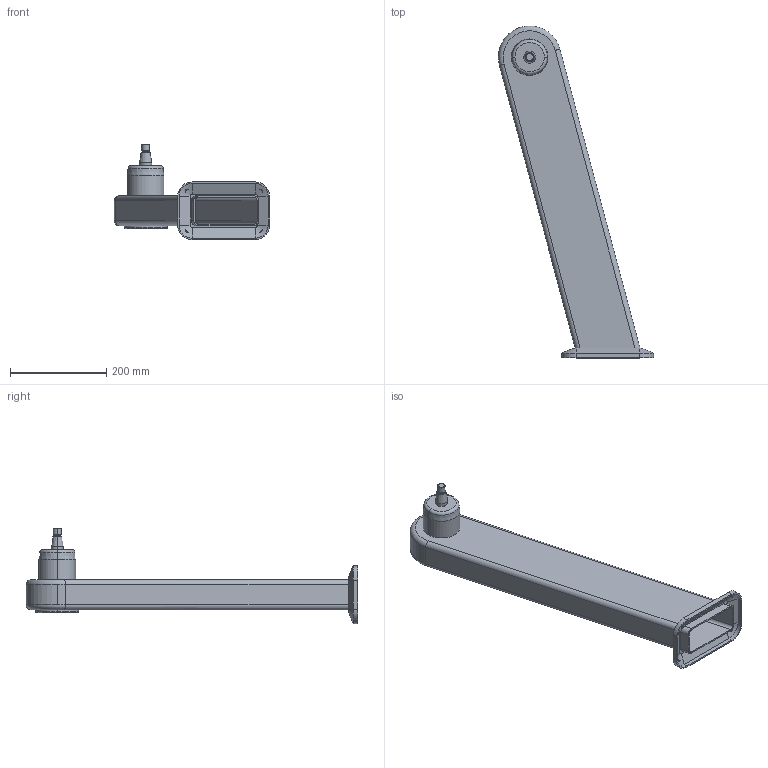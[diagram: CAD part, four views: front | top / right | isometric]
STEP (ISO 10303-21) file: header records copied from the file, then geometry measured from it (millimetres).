
FILE_DESCRIPTION (( 'STEP AP214' ), '1' );
FILE_NAME ('WP710_H625_-15.STEP', '2014-06-27T07:02:07', ( '' ), ( '' ), 'SwSTEP 2.0', 'SolidWorks 2014', '' );
FILE_SCHEMA (( 'AUTOMOTIVE_DESIGN' ));
Length unit declared in the file: millimetre
Products named in the file (1): WP710_H625_-15
Bounding box: 322.61 x 689.93 x 198 mm (x, y, z)
Volume: 1178890.3 mm3; surface area: 571087.9 mm2
Topology: 1 solids, 1 shells, 112 faces, 250 edges, 152 vertices
Faces by surface type: cylinder 44, plane 40, cone 20, torus 8
Entity records: 3211 total; most frequent: CARTESIAN_POINT 668, DIRECTION 552, ORIENTED_EDGE 500, EDGE_CURVE 250, AXIS2_PLACEMENT_3D 211, VERTEX_POINT 152, LINE 130, VECTOR 130
